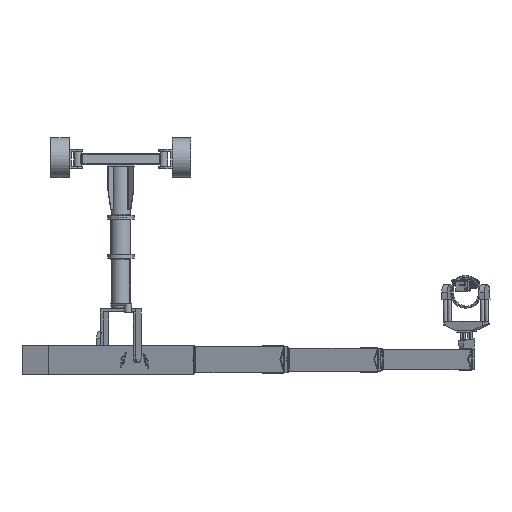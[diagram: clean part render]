
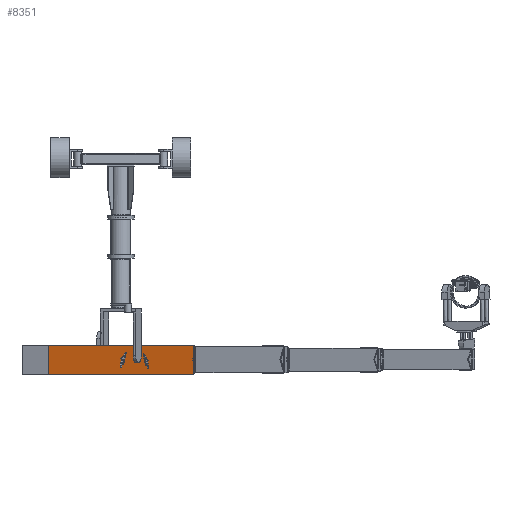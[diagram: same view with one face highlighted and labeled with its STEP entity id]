
A CAD part, left-side view. The second image highlights one B-rep face of the part: STEP entity #8351.
In plain terms, the highlighted planar face has unit normal (-0.373, -0.928, 0) as drawn and (-1, 0, 0) by its records, which use the part's own axes.
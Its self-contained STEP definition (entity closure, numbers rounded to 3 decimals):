
#457=PLANE('',#9309);
#730=FACE_BOUND('',#1476,.T.);
#731=FACE_BOUND('',#1477,.T.);
#939=FACE_OUTER_BOUND('',#1475,.T.);
#1475=EDGE_LOOP('',(#6662,#6663,#6664,#6665));
#1476=EDGE_LOOP('',(#6666,#6667,#6668,#6669,#6670,#6671,#6672));
#1477=EDGE_LOOP('',(#6673,#6674,#6675,#6676,#6677,#6678,#6679));
#1928=CIRCLE('',#9264,179.763);
#1930=CIRCLE('',#9268,199.763);
#1932=CIRCLE('',#9277,179.763);
#1934=CIRCLE('',#9280,199.763);
#2347=LINE('',#13103,#3247);
#2353=LINE('',#13115,#3253);
#2354=LINE('',#13118,#3254);
#2357=LINE('',#13123,#3257);
#2360=LINE('',#13133,#3260);
#2366=LINE('',#13149,#3266);
#2367=LINE('',#13152,#3267);
#2371=LINE('',#13161,#3271);
#2374=LINE('',#13166,#3274);
#2376=LINE('',#13171,#3276);
#2420=LINE('',#13284,#3320);
#2421=LINE('',#13287,#3321);
#2422=LINE('',#13289,#3322);
#2423=LINE('',#13290,#3323);
#3247=VECTOR('',#10600,10.);
#3253=VECTOR('',#10608,10.);
#3254=VECTOR('',#10611,10.);
#3257=VECTOR('',#10616,10.);
#3260=VECTOR('',#10627,10.);
#3266=VECTOR('',#10643,10.);
#3267=VECTOR('',#10646,10.);
#3271=VECTOR('',#10652,10.);
#3274=VECTOR('',#10657,10.);
#3276=VECTOR('',#10661,10.);
#3320=VECTOR('',#10771,10.);
#3321=VECTOR('',#10774,10.);
#3322=VECTOR('',#10775,10.);
#3323=VECTOR('',#10776,10.);
#4105=VERTEX_POINT('',#13099);
#4107=VERTEX_POINT('',#13102);
#4109=VERTEX_POINT('',#13108);
#4112=VERTEX_POINT('',#13113);
#4113=VERTEX_POINT('',#13117);
#4115=VERTEX_POINT('',#13126);
#4117=VERTEX_POINT('',#13132);
#4119=VERTEX_POINT('',#13142);
#4122=VERTEX_POINT('',#13147);
#4123=VERTEX_POINT('',#13151);
#4125=VERTEX_POINT('',#13157);
#4127=VERTEX_POINT('',#13160);
#4129=VERTEX_POINT('',#13169);
#4130=VERTEX_POINT('',#13170);
#4165=VERTEX_POINT('',#13280);
#4166=VERTEX_POINT('',#13282);
#4167=VERTEX_POINT('',#13286);
#4168=VERTEX_POINT('',#13288);
#4958=EDGE_CURVE('',#4107,#4105,#2347,.T.);
#4964=EDGE_CURVE('',#4109,#4112,#2353,.T.);
#4965=EDGE_CURVE('',#4113,#4107,#2354,.T.);
#4968=EDGE_CURVE('',#4112,#4113,#2357,.T.);
#4970=EDGE_CURVE('',#4115,#4109,#1928,.T.);
#4973=EDGE_CURVE('',#4117,#4115,#2360,.T.);
#4976=EDGE_CURVE('',#4105,#4117,#1930,.T.);
#4981=EDGE_CURVE('',#4119,#4122,#2366,.T.);
#4982=EDGE_CURVE('',#4122,#4123,#2367,.T.);
#4986=EDGE_CURVE('',#4127,#4125,#2371,.T.);
#4989=EDGE_CURVE('',#4123,#4127,#2374,.T.);
#4991=EDGE_CURVE('',#4129,#4130,#2376,.T.);
#4995=EDGE_CURVE('',#4125,#4129,#1932,.T.);
#4997=EDGE_CURVE('',#4130,#4119,#1934,.T.);
#5047=EDGE_CURVE('',#4165,#4166,#2420,.T.);
#5048=EDGE_CURVE('',#4165,#4167,#2421,.T.);
#5049=EDGE_CURVE('',#4168,#4166,#2422,.T.);
#5050=EDGE_CURVE('',#4167,#4168,#2423,.T.);
#6662=ORIENTED_EDGE('',*,*,#5048,.F.);
#6663=ORIENTED_EDGE('',*,*,#5047,.T.);
#6664=ORIENTED_EDGE('',*,*,#5049,.F.);
#6665=ORIENTED_EDGE('',*,*,#5050,.F.);
#6666=ORIENTED_EDGE('',*,*,#4964,.T.);
#6667=ORIENTED_EDGE('',*,*,#4968,.T.);
#6668=ORIENTED_EDGE('',*,*,#4965,.T.);
#6669=ORIENTED_EDGE('',*,*,#4958,.T.);
#6670=ORIENTED_EDGE('',*,*,#4976,.T.);
#6671=ORIENTED_EDGE('',*,*,#4973,.T.);
#6672=ORIENTED_EDGE('',*,*,#4970,.T.);
#6673=ORIENTED_EDGE('',*,*,#4991,.T.);
#6674=ORIENTED_EDGE('',*,*,#4997,.T.);
#6675=ORIENTED_EDGE('',*,*,#4981,.T.);
#6676=ORIENTED_EDGE('',*,*,#4982,.T.);
#6677=ORIENTED_EDGE('',*,*,#4989,.T.);
#6678=ORIENTED_EDGE('',*,*,#4986,.T.);
#6679=ORIENTED_EDGE('',*,*,#4995,.T.);
#8351=ADVANCED_FACE('',(#939,#730,#731),#457,.T.);
#9264=AXIS2_PLACEMENT_3D('',#13127,#10620,#10621);
#9268=AXIS2_PLACEMENT_3D('',#13138,#10632,#10633);
#9277=AXIS2_PLACEMENT_3D('',#13178,#10667,#10668);
#9280=AXIS2_PLACEMENT_3D('',#13181,#10673,#10674);
#9309=AXIS2_PLACEMENT_3D('',#13285,#10772,#10773);
#10600=DIRECTION('',(0.,0.713,0.701));
#10608=DIRECTION('',(0.,0.713,0.701));
#10611=DIRECTION('',(0.,0.492,-0.871));
#10616=DIRECTION('',(0.,-0.861,0.508));
#10620=DIRECTION('center_axis',(-1.,0.,0.));
#10621=DIRECTION('ref_axis',(0.,0.614,0.789));
#10627=DIRECTION('',(0.,0.713,0.701));
#10632=DIRECTION('center_axis',(1.,0.,0.));
#10633=DIRECTION('ref_axis',(0.,-0.624,-0.781));
#10643=DIRECTION('',(0.,-0.77,0.638));
#10646=DIRECTION('',(0.,-0.418,-0.909));
#10652=DIRECTION('',(0.,-0.77,0.638));
#10657=DIRECTION('',(0.,0.816,0.578));
#10661=DIRECTION('',(0.,-0.77,0.638));
#10667=DIRECTION('center_axis',(-1.,0.,0.));
#10668=DIRECTION('ref_axis',(0.,0.382,-0.924));
#10673=DIRECTION('center_axis',(1.,0.,0.));
#10674=DIRECTION('ref_axis',(0.,-0.43,0.903));
#10771=DIRECTION('',(0.,0.,1.));
#10772=DIRECTION('center_axis',(-1.,0.,0.));
#10773=DIRECTION('ref_axis',(0.,-1.,0.));
#10774=DIRECTION('',(0.,1.,0.));
#10775=DIRECTION('',(0.,-1.,0.));
#10776=DIRECTION('',(0.,0.,1.));
#13099=CARTESIAN_POINT('',(-145.6,24.371,1283.961));
#13102=CARTESIAN_POINT('',(-145.6,8.953,1268.819));
#13103=CARTESIAN_POINT('',(-145.6,-272.531,992.374));
#13108=CARTESIAN_POINT('',(-145.6,38.755,1298.088));
#13113=CARTESIAN_POINT('',(-145.6,60.397,1319.343));
#13115=CARTESIAN_POINT('',(-145.6,-272.531,992.374));
#13117=CARTESIAN_POINT('',(-145.6,-59.603,1390.077));
#13118=CARTESIAN_POINT('',(-145.6,263.447,818.685));
#13123=CARTESIAN_POINT('',(-145.6,381.89,1129.838));
#13126=CARTESIAN_POINT('',(-145.6,94.493,1268.731));
#13127=CARTESIAN_POINT('Origin',(-145.6,149.1,1440.));
#13132=CARTESIAN_POINT('',(-145.6,78.576,1253.099));
#13133=CARTESIAN_POINT('',(-145.6,-216.698,963.11));
#13138=CARTESIAN_POINT('Origin',(-145.6,149.1,1440.));
#13142=CARTESIAN_POINT('',(-145.6,11.741,1985.045));
#13147=CARTESIAN_POINT('',(-145.6,-9.693,2002.826));
#13149=CARTESIAN_POINT('',(-145.6,558.727,1531.273));
#13151=CARTESIAN_POINT('',(-145.6,-71.1,1869.186));
#13152=CARTESIAN_POINT('',(-145.6,-375.781,1206.112));
#13157=CARTESIAN_POINT('',(-145.6,27.258,1972.172));
#13160=CARTESIAN_POINT('',(-145.6,48.9,1954.218));
#13161=CARTESIAN_POINT('',(-145.6,558.727,1531.273));
#13166=CARTESIAN_POINT('',(-145.6,-438.684,1608.717));
#13169=CARTESIAN_POINT('',(-145.6,80.341,2006.094));
#13170=CARTESIAN_POINT('',(-145.6,63.171,2020.338));
#13171=CARTESIAN_POINT('',(-145.6,593.602,1580.3));
#13178=CARTESIAN_POINT('Origin',(-145.6,149.1,1840.));
#13181=CARTESIAN_POINT('Origin',(-145.6,149.1,1840.));
#13280=CARTESIAN_POINT('',(-145.6,-149.1,0.));
#13282=CARTESIAN_POINT('',(-145.6,-149.1,4000.));
#13284=CARTESIAN_POINT('',(-145.6,-149.1,0.));
#13285=CARTESIAN_POINT('Origin',(-145.6,149.1,0.));
#13286=CARTESIAN_POINT('',(-145.6,149.1,0.));
#13287=CARTESIAN_POINT('',(-145.6,-149.1,0.));
#13288=CARTESIAN_POINT('',(-145.6,149.1,4000.));
#13289=CARTESIAN_POINT('',(-145.6,-149.1,4000.));
#13290=CARTESIAN_POINT('',(-145.6,149.1,0.));
